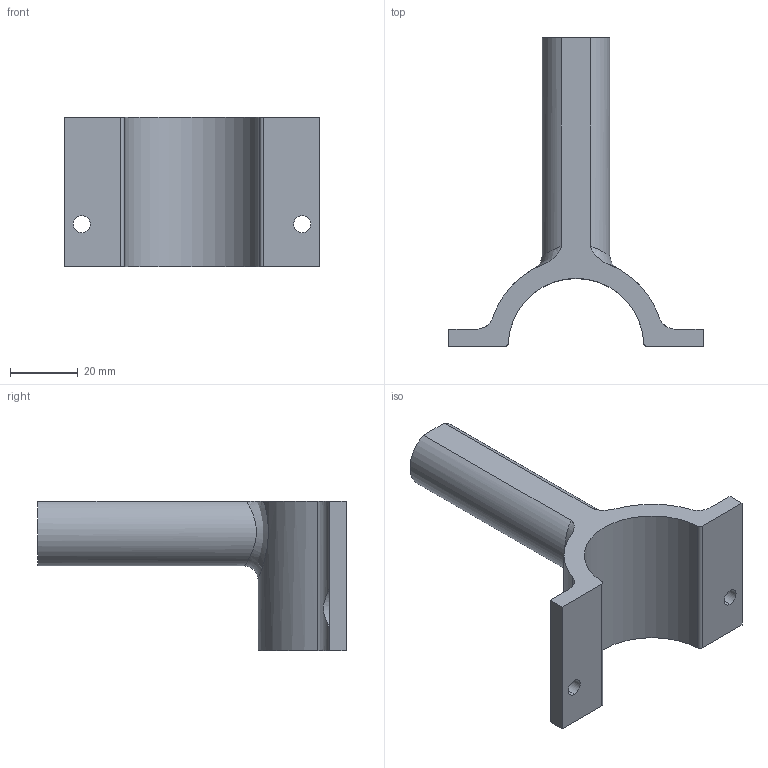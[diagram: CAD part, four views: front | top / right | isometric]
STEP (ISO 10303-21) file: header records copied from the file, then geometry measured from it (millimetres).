
FILE_DESCRIPTION (( 'STEP AP203' ), '1' );
FILE_NAME ('objemka_fi40_pol_navoj_v2.STEP', '2024-12-08T09:49:15', ( '' ), ( '' ), 'SwSTEP 2.0', 'SolidWorks 2023', '' );
FILE_SCHEMA (( 'CONFIG_CONTROL_DESIGN' ));
Length unit declared in the file: millimetre
Products named in the file (1): objemka_fi40_pol_navoj_v2
Bounding box: 75.03 x 91 x 44 mm (x, y, z)
Volume: 43347.2 mm3; surface area: 14766.2 mm2
Topology: 1 solids, 1 shells, 26 faces, 69 edges, 46 vertices
Faces by surface type: cylinder 15, plane 10, bspline 1
Entity records: 1421 total; most frequent: CARTESIAN_POINT 673, DIRECTION 143, ORIENTED_EDGE 138, EDGE_CURVE 69, AXIS2_PLACEMENT_3D 54, VERTEX_POINT 46, VECTOR 35, LINE 35
